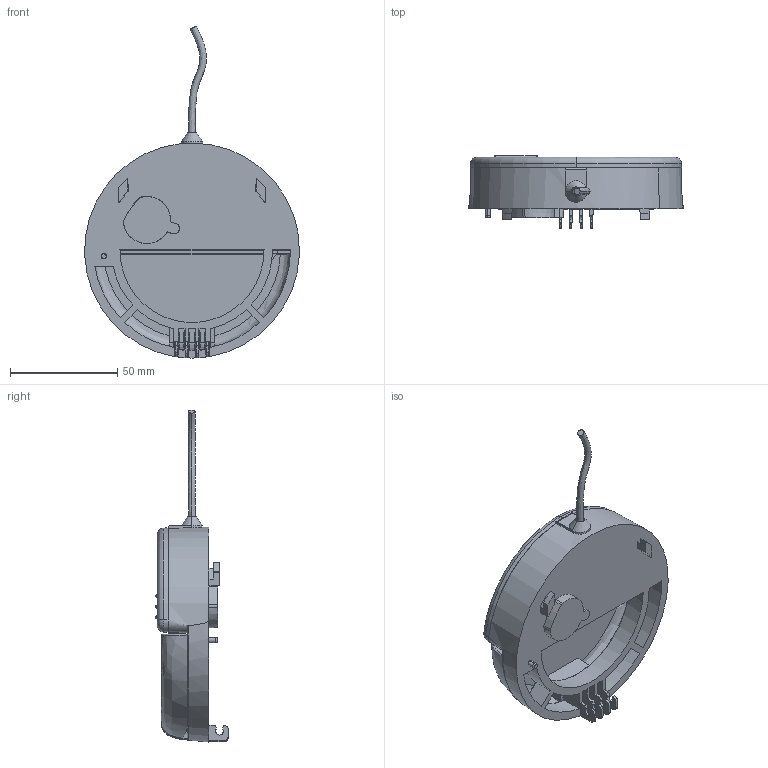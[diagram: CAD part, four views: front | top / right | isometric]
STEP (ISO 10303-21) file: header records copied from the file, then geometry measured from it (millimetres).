
FILE_DESCRIPTION (( 'STEP AP203' ), '1' );
FILE_NAME ('IWM-PL4 - modulo impulsi Woltmann.STEP', '2018-06-22T15:02:15', ( '' ), ( '' ), 'SwSTEP 2.0', 'SolidWorks 2018', '' );
FILE_SCHEMA (( 'CONFIG_CONTROL_DESIGN' ));
Length unit declared in the file: millimetre
Products named in the file (1): IWM-PL4 - modulo impulsi Woltmann
Bounding box: 99.93 x 33.75 x 154.46 mm (x, y, z)
Surface area: 36700.2 mm2 (no closed solid volume)
Topology: 0 solids, 6 shells, 226 faces, 804 edges, 551 vertices
Faces by surface type: plane 106, cone 36, cylinder 34, bspline 26, torus 24
Entity records: 10466 total; most frequent: CARTESIAN_POINT 4156, ORIENTED_EDGE 1399, DIRECTION 1114, EDGE_CURVE 804, VERTEX_POINT 551, AXIS2_PLACEMENT_3D 390, LINE 334, VECTOR 334
